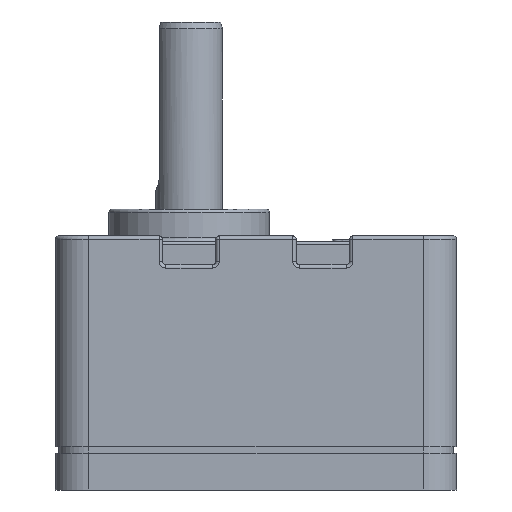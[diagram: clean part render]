
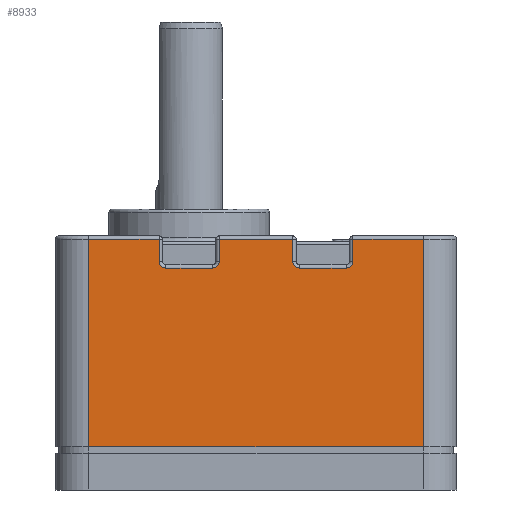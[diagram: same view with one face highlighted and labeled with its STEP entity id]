
A CAD part, left-side view. The second image highlights one B-rep face of the part: STEP entity #8933.
In plain terms, the highlighted planar face has unit normal (-1, 0, 0).
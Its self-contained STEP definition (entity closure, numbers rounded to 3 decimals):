
#8589=CARTESIAN_POINT('',(-30.,-25.,37.5));
#8590=VERTEX_POINT('',#8589);
#8599=CARTESIAN_POINT('',(-30.,-14.5,37.5));
#8600=VERTEX_POINT('',#8599);
#8608=CARTESIAN_POINT('',(-30.,-14.5,37.5));
#8609=DIRECTION('',(0.0,-1.0,0.0));
#8610=VECTOR('',#8609,10.5);
#8611=LINE('',#8608,#8610);
#8612=EDGE_CURVE('',#8600,#8590,#8611,.T.);
#8803=CARTESIAN_POINT('',(-30.,30.,38.));
#8804=DIRECTION('',(-1.0,0.0,0.0));
#8805=DIRECTION('',(0.0,0.0,-1.0));
#8806=AXIS2_PLACEMENT_3D('',#8803,#8804,#8805);
#8807=PLANE('',#8806);
#8808=ORIENTED_EDGE('',*,*,#8612,.F.);
#8809=CARTESIAN_POINT('',(-30.,-14.5,34.2));
#8810=VERTEX_POINT('',#8809);
#8811=CARTESIAN_POINT('',(-30.,-14.5,34.2));
#8812=DIRECTION('',(0.0,0.0,1.0));
#8813=VECTOR('',#8812,3.3);
#8814=LINE('',#8811,#8813);
#8815=EDGE_CURVE('',#8810,#8600,#8814,.T.);
#8816=ORIENTED_EDGE('',*,*,#8815,.F.);
#8817=CARTESIAN_POINT('',(-30.,-13.5,33.2));
#8818=VERTEX_POINT('',#8817);
#8819=CARTESIAN_POINT('',(-30.,-13.5,34.2));
#8820=DIRECTION('',(-1.0,0.,0.));
#8821=DIRECTION('',(0.,-0.707,-0.707));
#8822=AXIS2_PLACEMENT_3D('',#8819,#8820,#8821);
#8823=CIRCLE('',#8822,1.0);
#8824=EDGE_CURVE('',#8818,#8810,#8823,.T.);
#8825=ORIENTED_EDGE('',*,*,#8824,.F.);
#8826=CARTESIAN_POINT('',(-30.,-6.5,33.2));
#8827=VERTEX_POINT('',#8826);
#8828=CARTESIAN_POINT('',(-30.,-6.5,33.2));
#8829=DIRECTION('',(0.0,-1.0,0.0));
#8830=VECTOR('',#8829,7.);
#8831=LINE('',#8828,#8830);
#8832=EDGE_CURVE('',#8827,#8818,#8831,.T.);
#8833=ORIENTED_EDGE('',*,*,#8832,.F.);
#8834=CARTESIAN_POINT('',(-30.,-5.5,34.2));
#8835=VERTEX_POINT('',#8834);
#8836=CARTESIAN_POINT('',(-30.,-6.5,34.2));
#8837=DIRECTION('',(-1.,0.,0.));
#8838=DIRECTION('',(0.,0.707,-0.707));
#8839=AXIS2_PLACEMENT_3D('',#8836,#8837,#8838);
#8840=CIRCLE('',#8839,1.);
#8841=EDGE_CURVE('',#8835,#8827,#8840,.T.);
#8842=ORIENTED_EDGE('',*,*,#8841,.F.);
#8843=CARTESIAN_POINT('',(-30.,-5.5,37.5));
#8844=VERTEX_POINT('',#8843);
#8845=CARTESIAN_POINT('',(-30.,-5.5,37.5));
#8846=DIRECTION('',(0.0,0.0,-1.0));
#8847=VECTOR('',#8846,3.3);
#8848=LINE('',#8845,#8847);
#8849=EDGE_CURVE('',#8844,#8835,#8848,.T.);
#8850=ORIENTED_EDGE('',*,*,#8849,.F.);
#8851=CARTESIAN_POINT('',(-30.,5.5,37.5));
#8852=VERTEX_POINT('',#8851);
#8853=CARTESIAN_POINT('',(-30.,5.5,37.5));
#8854=DIRECTION('',(0.0,-1.0,0.0));
#8855=VECTOR('',#8854,11.);
#8856=LINE('',#8853,#8855);
#8857=EDGE_CURVE('',#8852,#8844,#8856,.T.);
#8858=ORIENTED_EDGE('',*,*,#8857,.F.);
#8859=CARTESIAN_POINT('',(-30.,5.5,34.2));
#8860=VERTEX_POINT('',#8859);
#8861=CARTESIAN_POINT('',(-30.,5.5,34.2));
#8862=DIRECTION('',(0.0,0.0,1.0));
#8863=VECTOR('',#8862,3.3);
#8864=LINE('',#8861,#8863);
#8865=EDGE_CURVE('',#8860,#8852,#8864,.T.);
#8866=ORIENTED_EDGE('',*,*,#8865,.F.);
#8867=CARTESIAN_POINT('',(-30.,6.5,33.2));
#8868=VERTEX_POINT('',#8867);
#8869=CARTESIAN_POINT('',(-30.,6.5,34.2));
#8870=DIRECTION('',(-1.,0.,0.));
#8871=DIRECTION('',(0.,-0.707,-0.707));
#8872=AXIS2_PLACEMENT_3D('',#8869,#8870,#8871);
#8873=CIRCLE('',#8872,1.);
#8874=EDGE_CURVE('',#8868,#8860,#8873,.T.);
#8875=ORIENTED_EDGE('',*,*,#8874,.F.);
#8876=CARTESIAN_POINT('',(-30.,13.5,33.2));
#8877=VERTEX_POINT('',#8876);
#8878=CARTESIAN_POINT('',(-30.,13.5,33.2));
#8879=DIRECTION('',(0.0,-1.0,0.0));
#8880=VECTOR('',#8879,7.);
#8881=LINE('',#8878,#8880);
#8882=EDGE_CURVE('',#8877,#8868,#8881,.T.);
#8883=ORIENTED_EDGE('',*,*,#8882,.F.);
#8884=CARTESIAN_POINT('',(-30.,14.5,34.2));
#8885=VERTEX_POINT('',#8884);
#8886=CARTESIAN_POINT('',(-30.,13.5,34.2));
#8887=DIRECTION('',(-1.0,0.,0.));
#8888=DIRECTION('',(0.,0.707,-0.707));
#8889=AXIS2_PLACEMENT_3D('',#8886,#8887,#8888);
#8890=CIRCLE('',#8889,1.0);
#8891=EDGE_CURVE('',#8885,#8877,#8890,.T.);
#8892=ORIENTED_EDGE('',*,*,#8891,.F.);
#8893=CARTESIAN_POINT('',(-30.,14.5,37.5));
#8894=VERTEX_POINT('',#8893);
#8895=CARTESIAN_POINT('',(-30.,14.5,37.5));
#8896=DIRECTION('',(0.0,0.0,-1.0));
#8897=VECTOR('',#8896,3.3);
#8898=LINE('',#8895,#8897);
#8899=EDGE_CURVE('',#8894,#8885,#8898,.T.);
#8900=ORIENTED_EDGE('',*,*,#8899,.F.);
#8901=CARTESIAN_POINT('',(-30.,25.,37.5));
#8902=VERTEX_POINT('',#8901);
#8903=CARTESIAN_POINT('',(-30.,25.,37.5));
#8904=DIRECTION('',(0.0,-1.0,0.0));
#8905=VECTOR('',#8904,10.5);
#8906=LINE('',#8903,#8905);
#8907=EDGE_CURVE('',#8902,#8894,#8906,.T.);
#8908=ORIENTED_EDGE('',*,*,#8907,.F.);
#8909=CARTESIAN_POINT('',(-30.,25.,6.5));
#8910=VERTEX_POINT('',#8909);
#8911=CARTESIAN_POINT('',(-30.,25.,6.5));
#8912=DIRECTION('',(0.0,0.0,1.0));
#8913=VECTOR('',#8912,31.0);
#8914=LINE('',#8911,#8913);
#8915=EDGE_CURVE('',#8910,#8902,#8914,.T.);
#8916=ORIENTED_EDGE('',*,*,#8915,.F.);
#8917=CARTESIAN_POINT('',(-30.,-25.,6.5));
#8918=VERTEX_POINT('',#8917);
#8919=CARTESIAN_POINT('',(-30.,25.,6.5));
#8920=DIRECTION('',(0.0,-1.0,0.0));
#8921=VECTOR('',#8920,50.);
#8922=LINE('',#8919,#8921);
#8923=EDGE_CURVE('',#8910,#8918,#8922,.T.);
#8924=ORIENTED_EDGE('',*,*,#8923,.T.);
#8925=CARTESIAN_POINT('',(-30.,-25.,37.5));
#8926=DIRECTION('',(0.0,0.0,-1.0));
#8927=VECTOR('',#8926,31.0);
#8928=LINE('',#8925,#8927);
#8929=EDGE_CURVE('',#8590,#8918,#8928,.T.);
#8930=ORIENTED_EDGE('',*,*,#8929,.F.);
#8931=EDGE_LOOP('',(#8808,#8816,#8825,#8833,#8842,#8850,#8858,#8866,#8875,#8883,#8892,#8900,#8908,#8916,#8924,#8930));
#8932=FACE_OUTER_BOUND('',#8931,.T.);
#8933=ADVANCED_FACE('',(#8932),#8807,.T.);
